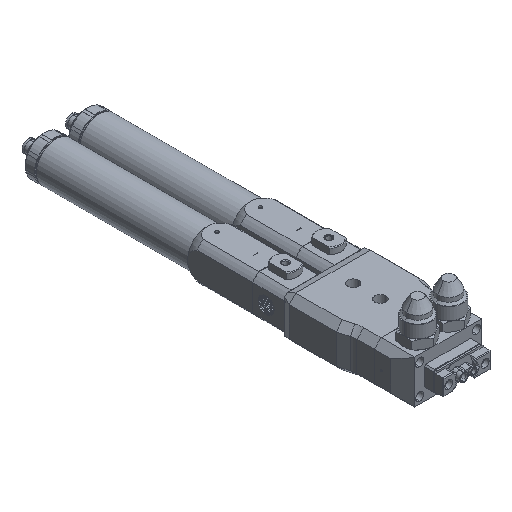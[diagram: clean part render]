
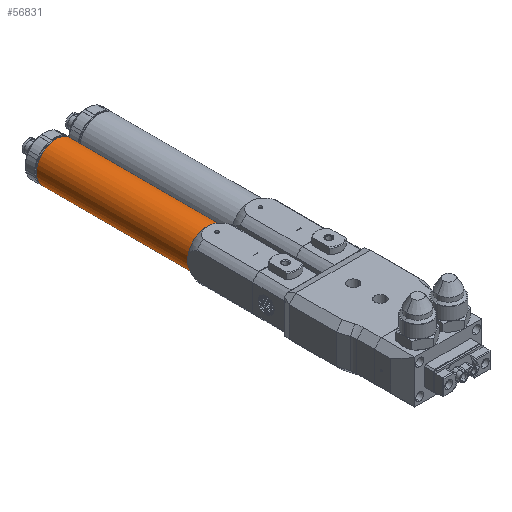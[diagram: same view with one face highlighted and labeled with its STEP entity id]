
A CAD part, isometric view. The second image highlights one B-rep face of the part: STEP entity #56831.
In plain terms, the highlighted cylindrical face has radius 14.5 mm (diameter 29 mm), a full revolution.
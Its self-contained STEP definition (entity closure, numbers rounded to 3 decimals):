
#650 = CIRCLE ( 'NONE', #1863, 14.5 ) ;
#885 = ORIENTED_EDGE ( 'NONE', *, *, #30967, .T. ) ;
#1664 = DIRECTION ( 'NONE',  ( 0., 0., -1. ) ) ;
#1863 = AXIS2_PLACEMENT_3D ( 'NONE', #24603, #72307, #55069 ) ;
#2151 = CIRCLE ( 'NONE', #65793, 14.5 ) ;
#7066 = EDGE_LOOP ( 'NONE', ( #46610, #38747 ) ) ;
#7678 = CARTESIAN_POINT ( 'NONE',  ( -10.38, 35.604, 1001.603 ) ) ;
#8796 = DIRECTION ( 'NONE',  ( 0., 0., -1. ) ) ;
#9688 = CARTESIAN_POINT ( 'NONE',  ( -10.38, 147.404, 987.103 ) ) ;
#10828 = DIRECTION ( 'NONE',  ( 0., -1., 0. ) ) ;
#11076 = CARTESIAN_POINT ( 'NONE',  ( -10.38, 31.667, 987.103 ) ) ;
#14831 = ORIENTED_EDGE ( 'NONE', *, *, #24246, .T. ) ;
#15651 = EDGE_LOOP ( 'NONE', ( #14831, #69108, #885, #66487 ) ) ;
#15756 = CYLINDRICAL_SURFACE ( 'NONE', #49427, 14.5 ) ;
#16919 = FACE_OUTER_BOUND ( 'NONE', #15651, .T. ) ;
#17462 = CARTESIAN_POINT ( 'NONE',  ( -10.38, 35.604, 972.603 ) ) ;
#19220 = CARTESIAN_POINT ( 'NONE',  ( -10.38, 35.604, 987.103 ) ) ;
#19625 = VERTEX_POINT ( 'NONE', #74154 ) ;
#21269 = CARTESIAN_POINT ( 'NONE',  ( -10.38, 147.404, 987.103 ) ) ;
#21607 = FACE_OUTER_BOUND ( 'NONE', #7066, .T. ) ;
#21995 = CIRCLE ( 'NONE', #33278, 14.5 ) ;
#22157 = DIRECTION ( 'NONE',  ( 0., 0., -1. ) ) ;
#24246 = EDGE_CURVE ( 'NONE', #51506, #34055, #650, .T. ) ;
#24603 = CARTESIAN_POINT ( 'NONE',  ( -10.38, 35.604, 987.103 ) ) ;
#28971 = VERTEX_POINT ( 'NONE', #7678 ) ;
#30967 = EDGE_CURVE ( 'NONE', #50075, #28971, #34649, .T. ) ;
#31330 = DIRECTION ( 'NONE',  ( 0., 1., 0. ) ) ;
#33278 = AXIS2_PLACEMENT_3D ( 'NONE', #9688, #10828, #22157 ) ;
#34055 = VERTEX_POINT ( 'NONE', #17462 ) ;
#34575 = CIRCLE ( 'NONE', #77202, 14.5 ) ;
#34640 = AXIS2_PLACEMENT_3D ( 'NONE', #19220, #31330, #1664 ) ;
#34649 = CIRCLE ( 'NONE', #69577, 14.5 ) ;
#38747 = ORIENTED_EDGE ( 'NONE', *, *, #38909, .T. ) ;
#38909 = EDGE_CURVE ( 'NONE', #46980, #19625, #21995, .T. ) ;
#43136 = DIRECTION ( 'NONE',  ( 0., 1., 0. ) ) ;
#45456 = DIRECTION ( 'NONE',  ( 0., 1., 0. ) ) ;
#45490 = DIRECTION ( 'NONE',  ( 0., -1., 0. ) ) ;
#46610 = ORIENTED_EDGE ( 'NONE', *, *, #61062, .T. ) ;
#46980 = VERTEX_POINT ( 'NONE', #76278 ) ;
#48617 = CARTESIAN_POINT ( 'NONE',  ( -10.38, 35.604, 987.103 ) ) ;
#49427 = AXIS2_PLACEMENT_3D ( 'NONE', #11076, #63798, #58725 ) ;
#50075 = VERTEX_POINT ( 'NONE', #66113 ) ;
#51506 = VERTEX_POINT ( 'NONE', #62827 ) ;
#54862 = DIRECTION ( 'NONE',  ( 0., 0., -1. ) ) ;
#55069 = DIRECTION ( 'NONE',  ( 0., 0., -1. ) ) ;
#56831 = ADVANCED_FACE ( 'NONE', ( #16919, #21607 ), #15756, .T. ) ;
#58443 = EDGE_CURVE ( 'NONE', #34055, #50075, #2151, .T. ) ;
#58725 = DIRECTION ( 'NONE',  ( 0., 0., -1. ) ) ;
#59021 = EDGE_CURVE ( 'NONE', #28971, #51506, #68362, .T. ) ;
#61062 = EDGE_CURVE ( 'NONE', #19625, #46980, #34575, .T. ) ;
#62267 = DIRECTION ( 'NONE',  ( 0., 0., -1. ) ) ;
#62827 = CARTESIAN_POINT ( 'NONE',  ( 4.12, 35.604, 987.103 ) ) ;
#63798 = DIRECTION ( 'NONE',  ( 0., -1., 0. ) ) ;
#65793 = AXIS2_PLACEMENT_3D ( 'NONE', #68541, #45456, #62267 ) ;
#66113 = CARTESIAN_POINT ( 'NONE',  ( -24.88, 35.604, 987.103 ) ) ;
#66487 = ORIENTED_EDGE ( 'NONE', *, *, #59021, .T. ) ;
#68362 = CIRCLE ( 'NONE', #34640, 14.5 ) ;
#68541 = CARTESIAN_POINT ( 'NONE',  ( -10.38, 35.604, 987.103 ) ) ;
#69108 = ORIENTED_EDGE ( 'NONE', *, *, #58443, .T. ) ;
#69577 = AXIS2_PLACEMENT_3D ( 'NONE', #48617, #43136, #54862 ) ;
#72307 = DIRECTION ( 'NONE',  ( 0., 1., 0. ) ) ;
#74154 = CARTESIAN_POINT ( 'NONE',  ( -10.38, 147.404, 1001.603 ) ) ;
#76278 = CARTESIAN_POINT ( 'NONE',  ( -10.38, 147.404, 972.603 ) ) ;
#77202 = AXIS2_PLACEMENT_3D ( 'NONE', #21269, #45490, #8796 ) ;
